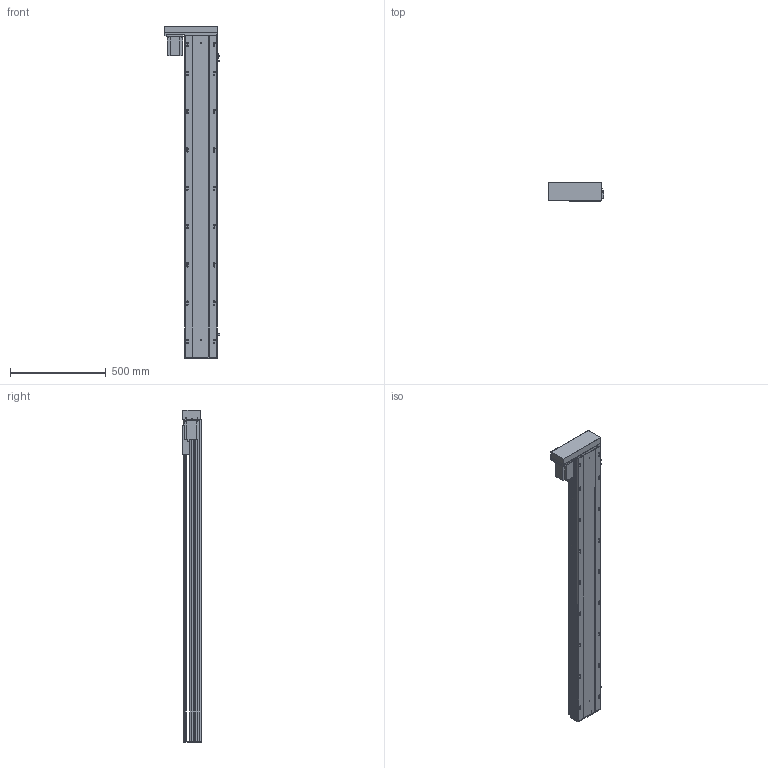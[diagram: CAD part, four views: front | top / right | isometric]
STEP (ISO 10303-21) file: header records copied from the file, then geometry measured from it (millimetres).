
FILE_DESCRIPTION (( 'STEP AP203' ), '1' );
FILE_NAME ('Y170-D10-S1450-BL-P750W.STEP', '2020-01-19T23:18:10', ( '微软用户' ), ( '微软中国' ), 'SwSTEP 2.0', 'SolidWorks 2017', '' );
FILE_SCHEMA (( 'CONFIG_CONTROL_DESIGN' ));
Length unit declared in the file: millimetre
Products named in the file (12): EGH20賑輸_蕼偞; Y--BL蟀諉啣-陔遴-; Y雄赽釱-耜蚾; Y170-D10-S1450-BL-P750W; Y-BL.BR-俋欶; Y170耜裔--準---; Y170-陔遴奻裔-BR; YD-Y100-135-新外置传感挡片(通用）; Y100-135俋离換覜ん; 170--掛极-BR; Y170-BL-P750W楊擘啣; 侂狟750W
Assembly tree (14 placements, depth 2):
  Y170-D10-S1450-BL-P750W
    Y170耜裔--準---
    YD-Y100-135-新外置传感挡片(通用）
    Y100-135俋离換覜ん  x3
    170--掛极-BR
    Y170-BL-P750W楊擘啣
    侂狟750W
    EGH20賑輸_蕼偞  x2
    Y雄赽釱-耜蚾
    Y-BL.BR-俋欶
    Y170-陔遴奻裔-BR
    Y--BL蟀諉啣-陔遴-
Bounding box: 289 x 97 x 1733.5 mm (x, y, z)
Volume: 7757279.7 mm3; surface area: 2736008.1 mm2
Topology: 14 solids, 14 shells, 957 faces, 2738 edges, 1808 vertices
Faces by surface type: cylinder 498, plane 443, cone 16
Entity records: 30810 total; most frequent: CARTESIAN_POINT 5606, DIRECTION 5068, ORIENTED_EDGE 4972, EDGE_CURVE 2486, AXIS2_PLACEMENT_3D 1810, VERTEX_POINT 1652, LINE 1448, VECTOR 1448
